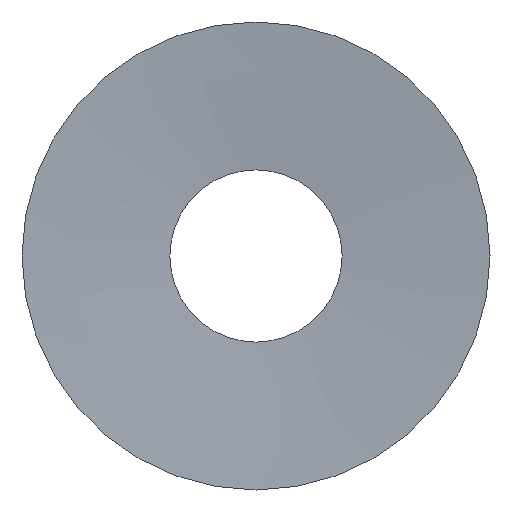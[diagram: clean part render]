
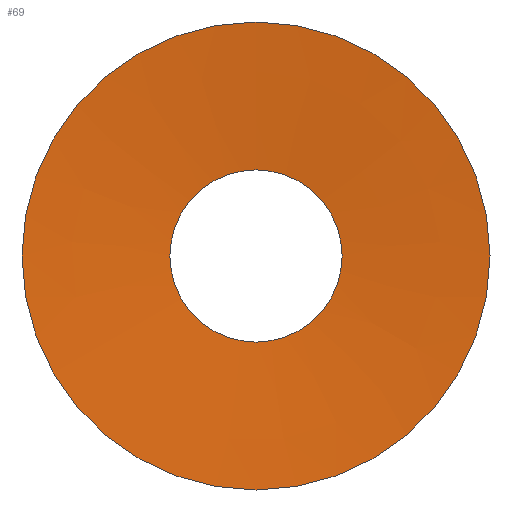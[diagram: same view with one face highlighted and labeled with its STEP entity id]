
A CAD part, front view. The second image highlights one B-rep face of the part: STEP entity #69.
In plain terms, the highlighted conical face has half-angle 85.687 degrees and reference radius 17.1 mm.
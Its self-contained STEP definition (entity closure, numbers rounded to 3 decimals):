
#19=FACE_OUTER_BOUND('',#23,.T.);
#23=EDGE_LOOP('',(#57,#58,#59,#60));
#27=LINE('',#137,#31);
#31=VECTOR('',#118,17.1);
#35=CIRCLE('',#98,9.2);
#36=CIRCLE('',#100,25.);
#39=VERTEX_POINT('',#132);
#40=VERTEX_POINT('',#136);
#45=EDGE_CURVE('',#39,#39,#35,.T.);
#46=EDGE_CURVE('',#39,#40,#27,.T.);
#47=EDGE_CURVE('',#40,#40,#36,.T.);
#57=ORIENTED_EDGE('',*,*,#45,.T.);
#58=ORIENTED_EDGE('',*,*,#46,.T.);
#59=ORIENTED_EDGE('',*,*,#47,.F.);
#60=ORIENTED_EDGE('',*,*,#46,.F.);
#66=CONICAL_SURFACE('',#99,17.1,1.496);
#69=ADVANCED_FACE('',(#19),#66,.F.);
#98=AXIS2_PLACEMENT_3D('',#134,#114,#115);
#99=AXIS2_PLACEMENT_3D('',#135,#116,#117);
#100=AXIS2_PLACEMENT_3D('',#138,#119,#120);
#114=DIRECTION('center_axis',(0.,1.,0.));
#115=DIRECTION('ref_axis',(1.,0.,0.));
#116=DIRECTION('center_axis',(0.,-1.,0.));
#117=DIRECTION('ref_axis',(0.,0.,-1.));
#118=DIRECTION('',(0.,-0.075,0.997));
#119=DIRECTION('center_axis',(0.,1.,0.));
#120=DIRECTION('ref_axis',(1.,0.,0.));
#132=CARTESIAN_POINT('',(0.,1.191,9.2));
#134=CARTESIAN_POINT('Origin',(0.,1.191,0.));
#135=CARTESIAN_POINT('Origin',(0.,0.596,0.));
#136=CARTESIAN_POINT('',(0.,0.,25.));
#137=CARTESIAN_POINT('',(0.,0.596,17.1));
#138=CARTESIAN_POINT('Origin',(0.,0.,0.));
